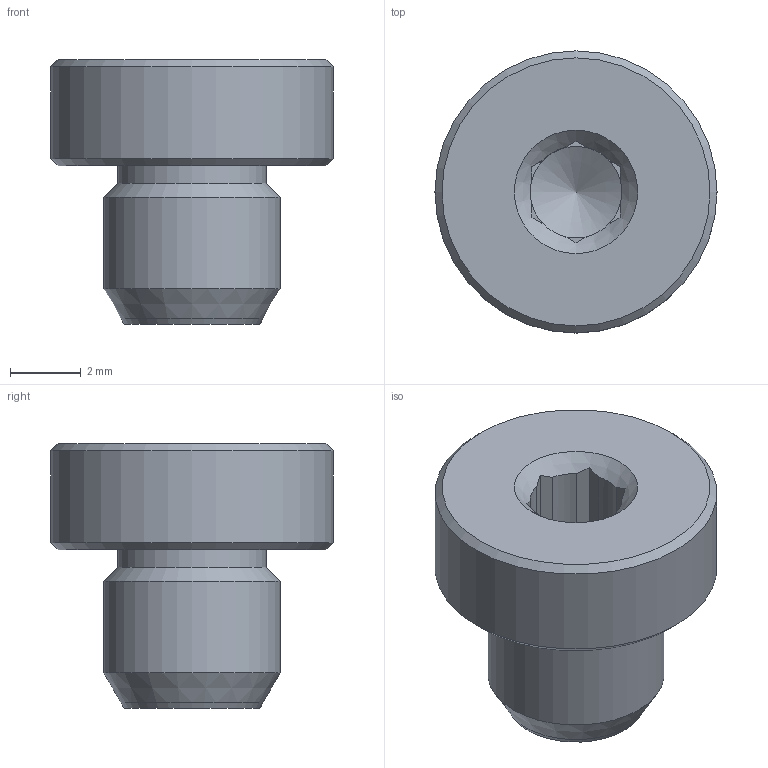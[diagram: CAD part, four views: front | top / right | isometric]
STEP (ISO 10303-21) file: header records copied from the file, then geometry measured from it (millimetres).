
FILE_DESCRIPTION(('Bauteilbeschreibung','HiCAD-Model','HiCAD-STEP-TRANSLATION','Bauteilbeschreibung'),'2;1');
FILE_NAME('B:/ABGLEICH/ZEICHNUNGEN/STEP FÜR INTERNET/STEP/107-OR/30150_107-OR_M5.STP','2012-08-08T15:08:19+00:00',('Konstrukteur'),('Konstrukteur Firma GmbH'),' HiCAD neXt 2008, Step 3.1.1401.2J ','HiCAD neXt 2008','confidential');
FILE_SCHEMA(('AUTOMOTIVE_DESIGN { 1 2 10303 214 0 1 1 1 }'));
Length unit declared in the file: millimetre
Products named in the file (4): A0150_107_OR_M5; A0150; A01500; DIN 13_M5
Assembly tree (3 placements, depth 3):
  A0150_107_OR_M5
    A0150
    A01500
      DIN 13_M5
Bounding box: 8 x 8 x 7.5 mm (x, y, z)
Volume: 190.5 mm3; surface area: 390.8 mm2
Topology: 2 solids, 2 shells, 40 faces, 99 edges, 65 vertices
Faces by surface type: plane 24, cone 8, cylinder 6, torus 2
Full cylindrical faces by diameter (mm): 2.6 x1, 4.019 x2, 4.2 x1, 5 x1, 8 x1
Entity records: 1495 total; most frequent: CARTESIAN_POINT 201, DIRECTION 186, ORIENTED_EDGE 148, AXIS2_PLACEMENT_3D 78, COLOUR_RGB 76, PRESENTATION_STYLE_ASSIGNMENT 76, CURVE_STYLE 74, DRAUGHTING_PRE_DEFINED_CURVE_FONT 74
